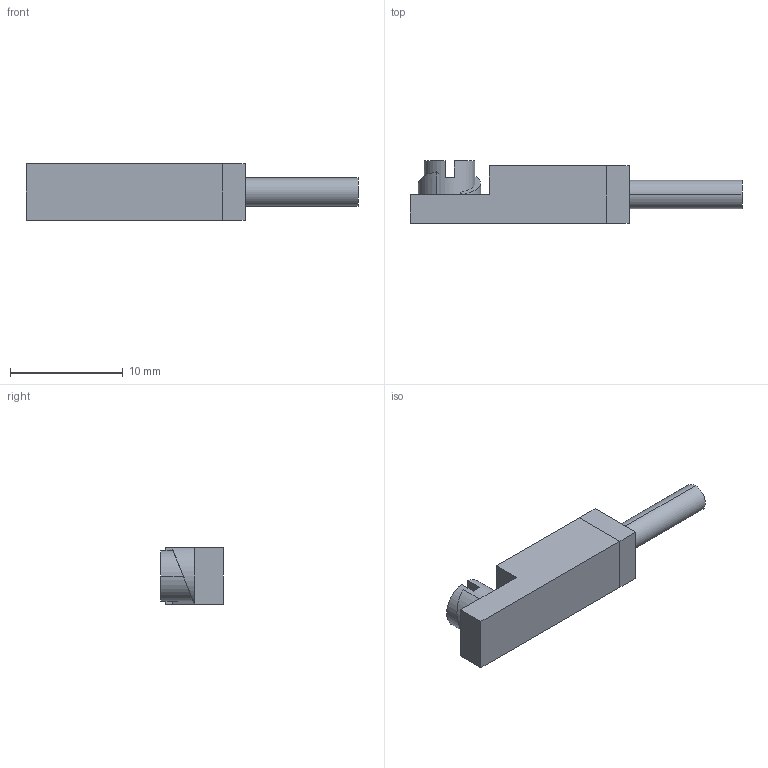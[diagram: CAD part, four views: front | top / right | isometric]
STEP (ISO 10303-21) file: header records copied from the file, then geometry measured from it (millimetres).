
FILE_DESCRIPTION (( 'STEP AP214' ), '1' );
FILE_NAME ('BMT1P30.STEP', '2025-06-05T09:28:50', ( '' ), ( '' ), 'SwSTEP 2.0', 'SolidWorks 2022', '' );
FILE_SCHEMA (( 'AUTOMOTIVE_DESIGN' ));
Length unit declared in the file: millimetre
Products named in the file (1): BMT1P30
Bounding box: 29.4 x 5.55 x 5 mm (x, y, z)
Volume: 499.6 mm3; surface area: 695.8 mm2
Topology: 7 solids, 7 shells, 63 faces, 142 edges, 94 vertices
Faces by surface type: plane 51, cylinder 12
Entity records: 1834 total; most frequent: CARTESIAN_POINT 318, DIRECTION 286, ORIENTED_EDGE 284, EDGE_CURVE 142, LINE 114, VECTOR 114, VERTEX_POINT 94, AXIS2_PLACEMENT_3D 86
